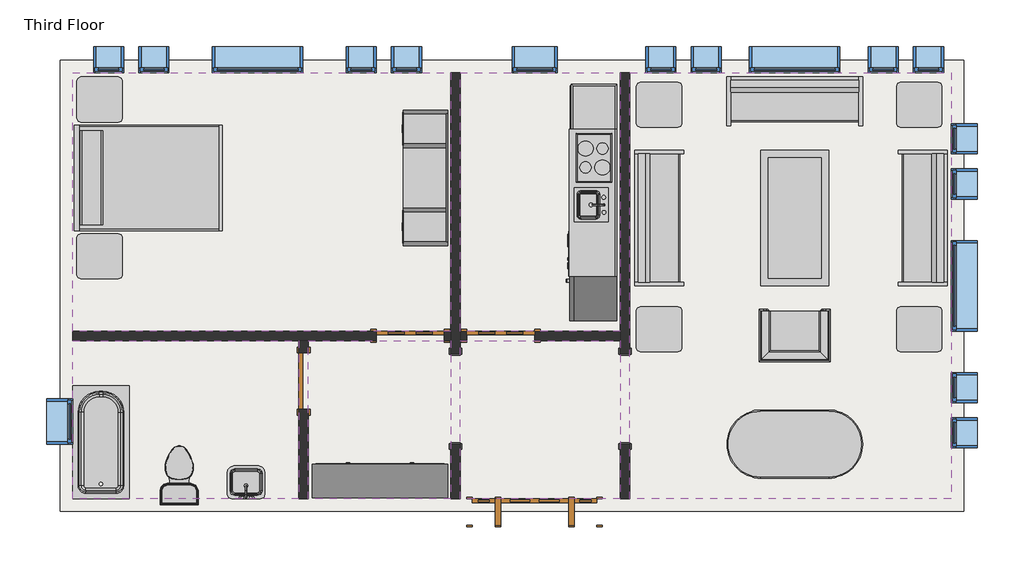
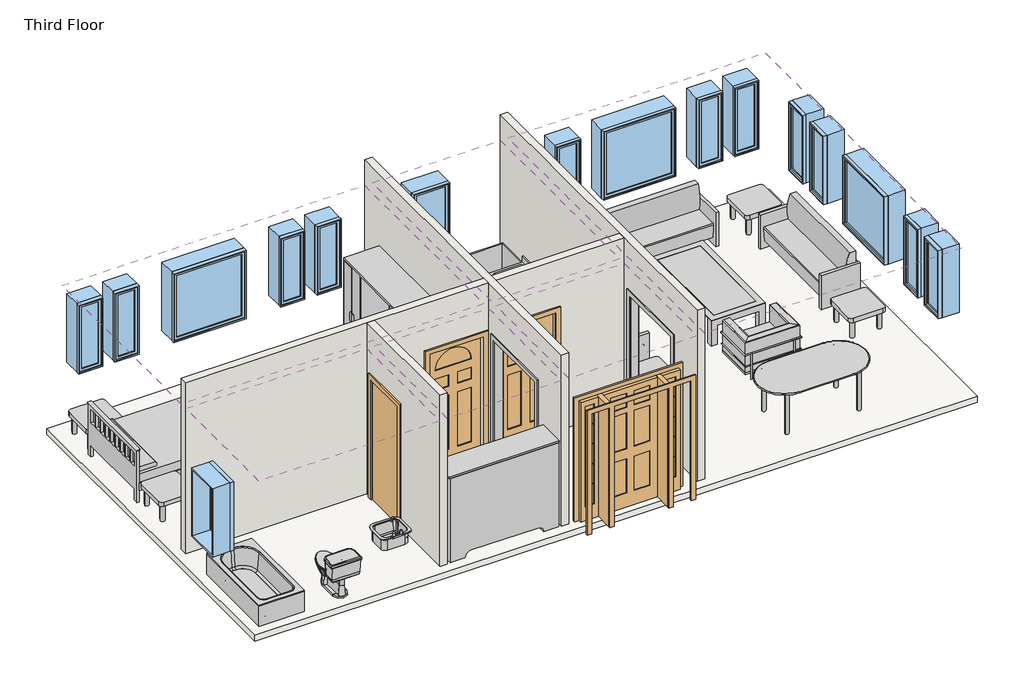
# One storey: 17 windows, 15 furniture elements, 6 coverings, 5 walls, 4 doors, 3 flow terminals, 3 proxies, 1 slab.
"""IFC4 building model written with IfcOpenShell, lengths in millimetres."""

from ifc_helpers import new_model, si_unit, frame, origin, place, context, project, spatial, polyline, outline, extrude, faceted_brep, transform, mapped, element, save
from components import proxy_64a468c4, proxy_f44482cc, door_829da954, door_2e3b4da2, door_4d6c7550, door_dba5aa2e, flow_terminal_0aeb31e3, toilet_domestic_3d_toilet_domestic_3d_f7549cf7, toilet_domestic_3d_toilet_domestic_3d_183bbd19, tub_rectangular_3d_tub_rectangular_3d_5e45a89b, furniture_096e7f55, chair_corbu_chair_corbu_2764bdef, furniture_7c473f12, furniture_ddc78764, furniture_4ef38d96, furniture_cd93a443, furniture_2c34a4f9, furniture_3a588284, furniture_1befe2a2, window_da97879f, window_d61ef850, window_60baf983, window_6eb97611

model = new_model("IFC4")

# Units and contexts
model_context = context("Model", 3, world=origin())
ifc_project = project(units=[si_unit("LENGTHUNIT", "METRE", prefix="MILLI")], contexts=[model_context])

# Site, building, storey
site = spatial("IfcSite", under=ifc_project)
building = spatial("IfcBuilding", under=site)
storey = spatial("IfcBuildingStorey", under=building, Name="Third Floor", Elevation=6096.0)

# Proxies
placement = place(None, origin())
proxy_shape = proxy_64a468c4(model_context)
element("IfcBuildingElementProxy", 1, Name="Kitchenette - Medium : 8'6\"", ObjectType="Kitchenette - Medium : 8'6\"", at=placement, inside=storey, context=model_context, shape_type="MappedRepresentation", body=[
    mapped(proxy_shape, transform((-3887.7589563, 8837.7956433, 6096.0), x_axis=(0.0, -1.0, 0.0), y_axis=(1.0, 0.0, 0.0), z_axis=(0.0, 0.0, 1.0))),
])
proxy_2_shape = proxy_f44482cc(model_context)
element("IfcBuildingElementProxy", 2, Name="Opening-Cased : 48\" x 84\"", ObjectType="Opening-Cased : 48\" x 84\"", at=placement, inside=storey, context=model_context, shape_type="MappedRepresentation", body=[
    mapped(proxy_2_shape, transform((-3773.4589563, 5882.4203434, 6096.0), x_axis=(0.0, 1.0, 0.0), y_axis=(-1.0, 0.0, 0.0), z_axis=(0.0, 0.0, 1.0))),
])
element("IfcBuildingElementProxy", 3, Name="Opening-Cased : 48\" x 84\"", ObjectType="Opening-Cased : 48\" x 84\"", at=placement, inside=storey, context=model_context, shape_type="MappedRepresentation", body=[
    mapped(proxy_2_shape, transform((-6059.4589563, 5866.04303, 6096.0), x_axis=(0.0, -1.0, 0.0), y_axis=(1.0, 0.0, 0.0), z_axis=(0.0, 0.0, 1.0))),
])

# Coverings
element("IfcCovering", 4, ObjectType="GWB on Mtl. Stud", at=placement, inside=storey, context=model_context, shape_type="SweptSolid", body=[
    extrude(outline(polyline([(-11217.2464563, 10270.0191867), (-6122.9589563, 10270.0191867), (-6122.9589563, 6787.0441867), (-11217.2464563, 6787.0441867), (-11217.2464563, 10270.0191867)])), frame((0.0, 0.0, 8686.8), z_axis=(0.0, 0.0, 1.0), x_axis=(1.0, 0.0, 0.0)), (0.0, 0.0, 1.0), 107.95),
])
element("IfcCovering", 5, ObjectType="GWB on Mtl. Stud", at=placement, inside=storey, context=model_context, shape_type="SweptSolid", body=[
    extrude(outline(polyline([(-5995.9589563, 6787.0441867), (-5995.9589563, 10270.0191867), (-3836.9589563, 10270.0191867), (-3836.9589563, 6787.0441867), (-5995.9589563, 6787.0441867)])), frame((0.0, 0.0, 8686.8), z_axis=(0.0, 0.0, 1.0), x_axis=(1.0, 0.0, 0.0)), (0.0, 0.0, 1.0), 107.95),
])
element("IfcCovering", 6, ObjectType="GWB on Mtl. Stud", at=placement, inside=storey, context=model_context, shape_type="SweptSolid", body=[
    extrude(outline(polyline([(-3709.9589563, 4526.4441867), (-3709.9589563, 10270.0191867), (622.3285437, 10270.0191867), (622.3285437, 4526.4441867), (-3709.9589563, 4526.4441867)])), frame((0.0, 0.0, 8686.8), z_axis=(0.0, 0.0, 1.0), x_axis=(1.0, 0.0, 0.0)), (0.0, 0.0, 1.0), 107.95),
])
element("IfcCovering", 7, ObjectType="GWB on Mtl. Stud", at=placement, inside=storey, context=model_context, shape_type="SweptSolid", body=[
    extrude(outline(polyline([(-3836.9589563, 4526.4441867), (-5995.9589563, 4526.4441867), (-5995.9589563, 6660.0441867), (-3836.9589563, 6660.0441867), (-3836.9589563, 4526.4441867)])), frame((0.0, 0.0, 8686.8), z_axis=(0.0, 0.0, 1.0), x_axis=(1.0, 0.0, 0.0)), (0.0, 0.0, 1.0), 107.95),
])
element("IfcCovering", 8, ObjectType="GWB on Mtl. Stud", at=placement, inside=storey, context=model_context, shape_type="SweptSolid", body=[
    extrude(outline(polyline([(-6122.9589563, 4526.4441867), (-8042.2464563, 4526.4441867), (-8042.2464563, 6660.0441867), (-6122.9589563, 6660.0441867), (-6122.9589563, 4526.4441867)])), frame((0.0, 0.0, 8686.8), z_axis=(0.0, 0.0, 1.0), x_axis=(1.0, 0.0, 0.0)), (0.0, 0.0, 1.0), 107.95),
])
element("IfcCovering", 9, ObjectType="GWB on Mtl. Stud", at=placement, inside=storey, context=model_context, shape_type="SweptSolid", body=[
    extrude(outline(polyline([(-8169.2464563, 6660.0441867), (-8169.2464563, 4526.4441867), (-11217.2464563, 4526.4441867), (-11217.2464563, 6660.0441867), (-8169.2464563, 6660.0441867)])), frame((0.0, 0.0, 8686.8), z_axis=(0.0, 0.0, 1.0), x_axis=(1.0, 0.0, 0.0)), (0.0, 0.0, 1.0), 107.95),
])

# Doors
door_shape = door_829da954(model_context)
element("IfcDoor", 10, ObjectType="Single-Decorative 2 : 36\" x 84\"", at=placement, inside=storey, context=model_context, shape_type="MappedRepresentation", body=[
    mapped(door_shape, transform((-5449.8589563, 6723.5441867, 6096.0), x_axis=(-1.0, 0.0, 0.0), y_axis=(0.0, -1.0, 0.0), z_axis=(0.0, 0.0, 1.0))),
])
door_2_shape = door_2e3b4da2(model_context)
element("IfcDoor", 11, ObjectType="Single-Decorative 2 : 36\" x 84\"", at=placement, inside=storey, context=model_context, shape_type="MappedRepresentation", body=[
    mapped(door_2_shape, transform((-6669.0589563, 6723.5441867, 6096.0), x_axis=(1.0, 0.0, 0.0), y_axis=(0.0, 1.0, 0.0), z_axis=(0.0, 0.0, 1.0))),
])
door_3_shape = door_4d6c7550(model_context)
element("IfcDoor", 12, ObjectType="Single-Flush : 30\" x 84\"", at=placement, inside=storey, context=model_context, shape_type="MappedRepresentation", body=[
    mapped(door_3_shape, transform((-8105.7464563, 6113.9441867, 6096.0), x_axis=(0.0, 1.0, 0.0), y_axis=(-1.0, 0.0, 0.0), z_axis=(0.0, 0.0, 1.0))),
])
door_4_shape = door_dba5aa2e(model_context)
element("IfcDoor", 13, ObjectType="Single-Raised Panel with Sidelights : 36\" x 84\"", at=placement, inside=storey, context=model_context, shape_type="MappedRepresentation", body=[
    mapped(door_4_shape, transform((-4992.6589563, 4350.2316867, 6096.0), x_axis=(-1.0, 0.0, 0.0), y_axis=(0.0, -1.0, 0.0), z_axis=(0.0, 0.0, 1.0))),
])

# Flow terminals
flow_terminal_shape = flow_terminal_0aeb31e3(model_context)
element("IfcFlowTerminal", 14, ObjectType="Sink Vanity-Square : 24\" x 19\"", at=placement, inside=storey, context=model_context, shape_type="MappedRepresentation", body=[
    mapped(flow_terminal_shape, transform((-8864.7572157, 4706.5895878, 6096.0), x_axis=(-1.0, 0.0, 0.0), y_axis=(0.0, -1.0, 0.0), z_axis=(0.0, 0.0, 1.0))),
])
toilet_domestic_3d_toilet_domestic_3d_shape = toilet_domestic_3d_toilet_domestic_3d_f7549cf7(model_context)
toilet_domestic_3d_toilet_domestic_3d_2_shape = toilet_domestic_3d_toilet_domestic_3d_183bbd19(model_context)
element("IfcFlowTerminal", 15, ObjectType="Toilet-Domestic-3D : Toilet-Domestic-3D", at=placement, inside=storey, context=model_context, shape_type="MappedRepresentation", body=[
    mapped(toilet_domestic_3d_toilet_domestic_3d_shape, transform((-9782.1466587, 4940.866411, 6096.0), x_axis=(-1.0000000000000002, 0.0, 0.0), y_axis=(0.0, -1.0000000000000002, 0.0), z_axis=(0.0, 0.0, 1.0))),
    mapped(toilet_domestic_3d_toilet_domestic_3d_2_shape, transform((-9782.1466587, 4940.866411, 6096.0), x_axis=(-1.0000000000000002, 0.0, 0.0), y_axis=(0.0, -1.0000000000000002, 0.0), z_axis=(0.0, 0.0, 1.0))),
])
tub_rectangular_3d_tub_rectangular_3d_shape = tub_rectangular_3d_tub_rectangular_3d_5e45a89b(model_context)
element("IfcFlowTerminal", 16, ObjectType="Tub-Rectangular-3D : Tub-Rectangular-3D", at=placement, inside=storey, context=model_context, shape_type="MappedRepresentation", body=[
    mapped(tub_rectangular_3d_tub_rectangular_3d_shape, transform((-11393.4589563, 5637.0471554, 6096.0), x_axis=(0.0, 1.0, 0.0), y_axis=(-1.0, 0.0, 0.0), z_axis=(0.0, 0.0, 1.0))),
])

# Furniture
furniture_shape = furniture_096e7f55(model_context)
element("IfcFurniture", 17, ObjectType="Bed-Shaker : Double 56\" x 78\"", at=placement, inside=storey, context=model_context, shape_type="MappedRepresentation", body=[
    mapped(furniture_shape, transform((-11183.1982802, 8871.8755561, 6096.0), x_axis=(0.0, 1.0, 0.0), y_axis=(-1.0, 0.0, 0.0), z_axis=(0.0, 0.0, 1.0))),
])
chair_corbu_chair_corbu_shape = chair_corbu_chair_corbu_2764bdef(model_context)
element("IfcFurniture", 18, ObjectType="Chair-Corbu : Chair-Corbu", at=placement, inside=storey, context=model_context, shape_type="MappedRepresentation", body=[
    mapped(chair_corbu_chair_corbu_shape, transform((-914.0851858, 7193.4962359, 6096.0), x_axis=(-1.0, 0.0, 0.0), y_axis=(0.0, -1.0, 0.0), z_axis=(0.0, 0.0, 1.0))),
])
furniture_2_shape = furniture_7c473f12(model_context)
element("IfcFurniture", 19, ObjectType="Dresser : 72\" x 60\" x 18\"", at=placement, inside=storey, context=model_context, shape_type="MappedRepresentation", body=[
    mapped(furniture_2_shape, transform((-7344.6522161, 4404.5812326, 6096.0), x_axis=(-1.0, 0.0, 0.0), y_axis=(0.0, -1.0, 0.0), z_axis=(0.0, 0.0, 1.0))),
])
furniture_3_shape = furniture_ddc78764(model_context)
element("IfcFurniture", 20, ObjectType="Entertainment Center : 72\" x 72\" x 24\"", at=placement, inside=storey, context=model_context, shape_type="MappedRepresentation", body=[
    mapped(furniture_3_shape, transform((-6059.4589563, 8852.8255561, 6096.0), x_axis=(0.0, -1.0, 0.0), y_axis=(1.0, 0.0, 0.0), z_axis=(0.0, 0.0, 1.0))),
])
furniture_4_shape = furniture_4ef38d96(model_context)
element("IfcFurniture", 21, ObjectType="Sofa : 72\"", at=placement, inside=storey, context=model_context, shape_type="MappedRepresentation", body=[
    mapped(furniture_4_shape, transform((-1557.8294481, 9741.2775883, 6096.0), x_axis=(1.0, 0.0, 0.0), y_axis=(0.0, 1.0, 0.0), z_axis=(0.0, 0.0, 1.0))),
])
element("IfcFurniture", 22, ObjectType="Sofa : 72\"", at=placement, inside=storey, context=model_context, shape_type="MappedRepresentation", body=[
    mapped(furniture_4_shape, transform((93.5869453, 8383.0021785, 6096.0), x_axis=(0.0, -1.0, 0.0), y_axis=(1.0, 0.0, 0.0), z_axis=(0.0, 0.0, 1.0))),
])
element("IfcFurniture", 23, ObjectType="Sofa : 72\"", at=placement, inside=storey, context=model_context, shape_type="MappedRepresentation", body=[
    mapped(furniture_4_shape, transform((-3170.104858, 8242.2611949, 6096.0), x_axis=(0.0, 1.0, 0.0), y_axis=(-1.0, 0.0, 0.0), z_axis=(0.0, 0.0, 1.0))),
])
furniture_5_shape = furniture_cd93a443(model_context)
element("IfcFurniture", 24, ObjectType="Table-Coffee : 36\" x 72\" x 18\"", at=placement, inside=storey, context=model_context, shape_type="MappedRepresentation", body=[
    mapped(furniture_5_shape, transform((-1582.6700341, 8330.8974534, 6096.0), x_axis=(0.0, -1.0, 0.0), y_axis=(1.0, 0.0, 0.0), z_axis=(0.0, 0.0, 1.0))),
])
furniture_6_shape = furniture_2c34a4f9(model_context)
element("IfcFurniture", 25, ObjectType="Table-Dining Oval : 36\" x 72\"", at=placement, inside=storey, context=model_context, shape_type="MappedRepresentation", body=[
    mapped(furniture_6_shape, transform((-1085.6392842, 5622.7300473, 6096.0), x_axis=(1.0, 0.0, 0.0), y_axis=(0.0, 1.0, 0.0), z_axis=(0.0, 0.0, 1.0))),
])
furniture_7_shape = furniture_3a588284(model_context)
element("IfcFurniture", 26, ObjectType="Table-End : 24\" x 24\"", at=placement, inside=storey, context=model_context, shape_type="MappedRepresentation", body=[
    mapped(furniture_7_shape, transform((-119.5925866, 9684.2316867, 6096.0), x_axis=(1.0, 0.0, 0.0), y_axis=(0.0, 1.0, 0.0), z_axis=(0.0, 0.0, 1.0))),
])
element("IfcFurniture", 27, ObjectType="Table-End : 24\" x 24\"", at=placement, inside=storey, context=model_context, shape_type="MappedRepresentation", body=[
    mapped(furniture_7_shape, transform((-3624.7925866, 9684.2316867, 6096.0), x_axis=(1.0, 0.0, 0.0), y_axis=(0.0, 1.0, 0.0), z_axis=(0.0, 0.0, 1.0))),
])
element("IfcFurniture", 28, ObjectType="Table-End : 24\" x 24\"", at=placement, inside=storey, context=model_context, shape_type="MappedRepresentation", body=[
    mapped(furniture_7_shape, transform((-3624.7925866, 6660.0441867, 6096.0), x_axis=(1.0, 0.0, 0.0), y_axis=(0.0, 1.0, 0.0), z_axis=(0.0, 0.0, 1.0))),
])
element("IfcFurniture", 29, ObjectType="Table-End : 24\" x 24\"", at=placement, inside=storey, context=model_context, shape_type="MappedRepresentation", body=[
    mapped(furniture_7_shape, transform((-119.5925866, 6660.0441867, 6096.0), x_axis=(1.0, 0.0, 0.0), y_axis=(0.0, 1.0, 0.0), z_axis=(0.0, 0.0, 1.0))),
])
element("IfcFurniture", 30, ObjectType="Table-End : 24\" x 24\"", at=placement, inside=storey, context=model_context, shape_type="MappedRepresentation", body=[
    mapped(furniture_7_shape, transform((-11164.2346356, 9756.0737357, 6096.0), x_axis=(1.0, 0.0, 0.0), y_axis=(0.0, 1.0, 0.0), z_axis=(0.0, 0.0, 1.0))),
])
furniture_8_shape = furniture_1befe2a2(model_context)
element("IfcFurniture", 31, ObjectType="Table-End : 24\" x 24\"", at=placement, inside=storey, context=model_context, shape_type="MappedRepresentation", body=[
    mapped(furniture_8_shape, transform((-11164.2346356, 7949.5773764, 6096.0), x_axis=(1.0, 0.0, 0.0), y_axis=(0.0, 1.0, 0.0), z_axis=(0.0, 0.0, 1.0))),
])

# Slab
element("IfcSlab", 32, ObjectType="LW Concrete on Metal Deck", at=placement, inside=storey, context=model_context, shape_type="SweptSolid", body=[
    extrude(outline(polyline([(787.4285437, 10435.1191867), (787.4285437, 4361.3441867), (-11382.3464563, 4361.3441867), (-11382.3464563, 10435.1191867), (787.4285437, 10435.1191867)])), frame((0.0, 0.0, 5991.225), z_axis=(0.0, 0.0, 1.0), x_axis=(1.0, 0.0, 0.0)), (0.0, 0.0, 1.0), 104.775),
])

# Walls
element("IfcWall", 33, ObjectType="Interior - 5\" Partition (2-hr)", at=placement, inside=storey, context=model_context, shape_type="Brep", body=[
    faceted_brep([(-3709.9589563, 10270.0191867, 6096.0), (-3709.9589563, 6483.8316867, 6096.0), (-3836.9589563, 6483.8316867, 6096.0), (-3836.9589563, 6660.0441867, 6096.0), (-3836.9589563, 6787.0441867, 6096.0), (-3836.9589563, 10270.0191867, 6096.0), (-3709.9589563, 5264.6316867, 6096.0), (-3709.9589563, 4526.4441867, 6096.0), (-3836.9589563, 4526.4441867, 6096.0), (-3836.9589563, 5264.6316867, 6096.0), (-3836.9589563, 10270.0191867, 9144.0), (-3836.9589563, 6787.0441867, 9144.0), (-3836.9589563, 6660.0441867, 9144.0), (-3836.9589563, 4526.4441867, 9144.0), (-3709.9589563, 4526.4441867, 9144.0), (-3709.9589563, 10270.0191867, 9144.0), (-3836.9589563, 6483.8316867, 8229.6), (-3836.9589563, 5264.6316867, 8229.6), (-3709.9589563, 6483.8316867, 8229.6), (-3709.9589563, 5264.6316867, 8229.6)], [[[0, 1, 2, 3, 4, 5]], [[6, 7, 8, 9]], [[10, 11, 12, 13, 14, 15]], [[5, 4, 3, 2, 16, 17, 9, 8, 13, 12, 11, 10]], [[18, 1, 0, 15, 14, 7, 6, 19]], [[5, 10, 15, 0]], [[13, 8, 7, 14]], [[9, 17, 19, 6]], [[16, 2, 1, 18]], [[17, 16, 18, 19]]]),
])
element("IfcWall", 34, ObjectType="Interior - 5\" Partition (2-hr)", at=placement, inside=storey, context=model_context, shape_type="Brep", body=[
    faceted_brep([(-6122.9589563, 4526.4441867, 6096.0), (-6122.9589563, 5264.6316867, 6096.0), (-5995.9589563, 5264.6316867, 6096.0), (-5995.9589563, 4526.4441867, 6096.0), (-6122.9589563, 6483.8316867, 6096.0), (-6122.9589563, 6660.0441867, 6096.0), (-6122.9589563, 6787.0441867, 6096.0), (-6122.9589563, 10270.0191867, 6096.0), (-5995.9589563, 10270.0191867, 6096.0), (-5995.9589563, 6787.0441867, 6096.0), (-5995.9589563, 6660.0441867, 6096.0), (-5995.9589563, 6483.8316867, 6096.0), (-6122.9589563, 10270.0191867, 9144.0), (-6122.9589563, 6787.0441867, 9144.0), (-6122.9589563, 6660.0441867, 9144.0), (-6122.9589563, 4526.4441867, 9144.0), (-5995.9589563, 4526.4441867, 9144.0), (-5995.9589563, 6660.0441867, 9144.0), (-5995.9589563, 6787.0441867, 9144.0), (-5995.9589563, 10270.0191867, 9144.0), (-6122.9589563, 5264.6316867, 8229.6), (-6122.9589563, 6483.8316867, 8229.6), (-5995.9589563, 5264.6316867, 8229.6), (-5995.9589563, 6483.8316867, 8229.6)], [[[0, 1, 2, 3]], [[4, 5, 6, 7, 8, 9, 10, 11]], [[12, 13, 14, 15, 16, 17, 18, 19]], [[20, 1, 0, 15, 14, 13, 12, 7, 6, 5, 4, 21]], [[3, 2, 22, 23, 11, 10, 9, 8, 19, 18, 17, 16]], [[7, 12, 19, 8]], [[15, 0, 3, 16]], [[11, 23, 21, 4]], [[22, 2, 1, 20]], [[23, 22, 20, 21]]]),
])
element("IfcWall", 35, ObjectType="Interior - 5\" Partition (2-hr)", at=placement, inside=storey, context=model_context, shape_type="Brep", body=[
    faceted_brep([(-6122.9589563, 6660.0441867, 6096.0), (-6211.8589563, 6660.0441867, 6096.0), (-6211.8589563, 6787.0441867, 6096.0), (-6122.9589563, 6787.0441867, 6096.0), (-7126.2589563, 6660.0441867, 6096.0), (-8042.2464563, 6660.0441867, 6096.0), (-8169.2464563, 6660.0441867, 6096.0), (-11217.2464563, 6660.0441867, 6096.0), (-11217.2464563, 6787.0441867, 6096.0), (-7126.2589563, 6787.0441867, 6096.0), (-11217.2464563, 6660.0441867, 9144.0), (-8169.2464563, 6660.0441867, 9144.0), (-8042.2464563, 6660.0441867, 9144.0), (-6122.9589563, 6660.0441867, 9144.0), (-6122.9589563, 6787.0441867, 9144.0), (-11217.2464563, 6787.0441867, 9144.0), (-6211.8589563, 6660.0441867, 8229.6), (-7126.2589563, 6660.0441867, 8229.6), (-6211.8589563, 6787.0441867, 8229.6), (-7126.2589563, 6787.0441867, 8229.6)], [[[0, 1, 2, 3]], [[4, 5, 6, 7, 8, 9]], [[10, 11, 12, 13, 14, 15]], [[16, 1, 0, 13, 12, 11, 10, 7, 6, 5, 4, 17]], [[3, 2, 18, 19, 9, 8, 15, 14]], [[13, 0, 3, 14]], [[7, 10, 15, 8]], [[18, 2, 1, 16]], [[19, 18, 16, 17]], [[9, 19, 17, 4]]]),
])
element("IfcWall", 36, ObjectType="Interior - 5\" Partition (2-hr)", at=placement, inside=storey, context=model_context, shape_type="SweptSolid", body=[
    extrude(outline(polyline([(6660.0441867, 6096.0), (6494.9441867, 6096.0), (6494.9441867, 8229.6), (5732.9441867, 8229.6), (5732.9441867, 6096.0), (4526.4441867, 6096.0), (4526.4441867, 9144.0), (6660.0441867, 9144.0), (6660.0441867, 6096.0)])), frame((-8169.2464563, 0.0, 0.0), z_axis=(1.0, 0.0, 0.0), x_axis=(0.0, 1.0, 0.0)), (0.0, 0.0, 1.0), 127.0),
])
element("IfcWall", 37, ObjectType="Interior - 5\" Partition (2-hr)", at=placement, inside=storey, context=model_context, shape_type="SweptSolid", body=[
    extrude(outline(polyline([(6096.0, -5995.9589563), (6096.0, -5907.0589563), (8229.6, -5907.0589563), (8229.6, -4992.6589563), (6096.0, -4992.6589563), (6096.0, -3836.9589563), (9144.0, -3836.9589563), (9144.0, -5995.9589563), (6096.0, -5995.9589563)])), frame((0.0, 6660.0441867, 0.0), z_axis=(0.0, 1.0, 0.0), x_axis=(0.0, 0.0, 1.0)), (0.0, 0.0, 1.0), 127.0),
])

# Windows
window_shape = window_da97879f(model_context)
element("IfcWindow", 38, ObjectType="Fixed : 16\" x 48\"", at=placement, inside=storey, context=model_context, shape_type="MappedRepresentation", body=[
    mapped(window_shape, transform((-10771.1589563, 10446.2316867, 6096.0), x_axis=(-1.0, 0.0, 0.0), y_axis=(0.0, -1.0, 0.0), z_axis=(0.0, 0.0, 1.0))),
])
element("IfcWindow", 39, ObjectType="Fixed : 16\" x 48\"", at=placement, inside=storey, context=model_context, shape_type="MappedRepresentation", body=[
    mapped(window_shape, transform((-10161.5589563, 10446.2316867, 6096.0), x_axis=(-1.0, 0.0, 0.0), y_axis=(0.0, -1.0, 0.0), z_axis=(0.0, 0.0, 1.0))),
])
element("IfcWindow", 40, ObjectType="Fixed : 16\" x 48\"", at=placement, inside=storey, context=model_context, shape_type="MappedRepresentation", body=[
    mapped(window_shape, transform((-3328.9589563, 10446.2316867, 6096.0), x_axis=(-1.0, 0.0, 0.0), y_axis=(0.0, -1.0, 0.0), z_axis=(0.0, 0.0, 1.0))),
])
element("IfcWindow", 41, ObjectType="Fixed : 16\" x 48\"", at=placement, inside=storey, context=model_context, shape_type="MappedRepresentation", body=[
    mapped(window_shape, transform((-2719.3589563, 10446.2316867, 6096.0), x_axis=(-1.0, 0.0, 0.0), y_axis=(0.0, -1.0, 0.0), z_axis=(0.0, 0.0, 1.0))),
])
element("IfcWindow", 42, ObjectType="Fixed : 16\" x 48\"", at=placement, inside=storey, context=model_context, shape_type="MappedRepresentation", body=[
    mapped(window_shape, transform((798.5410437, 9417.5316867, 6096.0), x_axis=(0.0, 1.0, 0.0), y_axis=(-1.0, 0.0, 0.0), z_axis=(0.0, 0.0, 1.0))),
])
element("IfcWindow", 43, ObjectType="Fixed : 16\" x 48\"", at=placement, inside=storey, context=model_context, shape_type="MappedRepresentation", body=[
    mapped(window_shape, transform((798.5410437, 8807.9316867, 6096.0), x_axis=(0.0, 1.0, 0.0), y_axis=(-1.0, 0.0, 0.0), z_axis=(0.0, 0.0, 1.0))),
])
window_2_shape = window_d61ef850(model_context)
element("IfcWindow", 44, ObjectType="Fixed : 16\" x 48\"", at=placement, inside=storey, context=model_context, shape_type="MappedRepresentation", body=[
    mapped(window_2_shape, transform((-6681.7589563, 10446.2316867, 6096.0), x_axis=(1.0, 0.0, 0.0), y_axis=(0.0, 1.0, 0.0), z_axis=(0.0, 0.0, 1.0))),
])
element("IfcWindow", 45, ObjectType="Fixed : 16\" x 48\"", at=placement, inside=storey, context=model_context, shape_type="MappedRepresentation", body=[
    mapped(window_2_shape, transform((-7291.3589563, 10446.2316867, 6096.0), x_axis=(1.0, 0.0, 0.0), y_axis=(0.0, 1.0, 0.0), z_axis=(0.0, 0.0, 1.0))),
])
element("IfcWindow", 46, ObjectType="Fixed : 16\" x 48\"", at=placement, inside=storey, context=model_context, shape_type="MappedRepresentation", body=[
    mapped(window_2_shape, transform((354.0410437, 10446.2316867, 6096.0), x_axis=(1.0, 0.0, 0.0), y_axis=(0.0, 1.0, 0.0), z_axis=(0.0, 0.0, 1.0))),
])
element("IfcWindow", 47, ObjectType="Fixed : 16\" x 48\"", at=placement, inside=storey, context=model_context, shape_type="MappedRepresentation", body=[
    mapped(window_2_shape, transform((-255.5589563, 10446.2316867, 6096.0), x_axis=(1.0, 0.0, 0.0), y_axis=(0.0, 1.0, 0.0), z_axis=(0.0, 0.0, 1.0))),
])
element("IfcWindow", 48, ObjectType="Fixed : 16\" x 48\"", at=placement, inside=storey, context=model_context, shape_type="MappedRepresentation", body=[
    mapped(window_2_shape, transform((798.5410437, 5378.9316867, 6096.0), x_axis=(0.0, -1.0, 0.0), y_axis=(1.0, 0.0, 0.0), z_axis=(0.0, 0.0, 1.0))),
])
element("IfcWindow", 49, ObjectType="Fixed : 16\" x 48\"", at=placement, inside=storey, context=model_context, shape_type="MappedRepresentation", body=[
    mapped(window_2_shape, transform((798.5410437, 5988.5316867, 6096.0), x_axis=(0.0, -1.0, 0.0), y_axis=(1.0, 0.0, 0.0), z_axis=(0.0, 0.0, 1.0))),
])
window_3_shape = window_60baf983(model_context)
element("IfcWindow", 50, ObjectType="Fixed : 24\" x 48\"", at=placement, inside=storey, context=model_context, shape_type="MappedRepresentation", body=[
    mapped(window_3_shape, transform((-5030.7589563, 10446.2316867, 6096.0), x_axis=(-1.0, 0.0, 0.0), y_axis=(0.0, -1.0, 0.0), z_axis=(0.0, 0.0, 1.0))),
])
element("IfcWindow", 51, ObjectType="Fixed : 24\" x 48\"", at=placement, inside=storey, context=model_context, shape_type="MappedRepresentation", body=[
    mapped(window_3_shape, transform((-11393.4589563, 5531.3316867, 6096.0), x_axis=(0.0, -1.0, 0.0), y_axis=(1.0, 0.0, 0.0), z_axis=(0.0, 0.0, 1.0))),
])
window_4_shape = window_6eb97611(model_context)
element("IfcWindow", 52, ObjectType="Fixed : 48\" x 48\"", at=placement, inside=storey, context=model_context, shape_type="MappedRepresentation", body=[
    mapped(window_4_shape, transform((-8764.5589563, 10446.2316867, 6096.0), x_axis=(-1.0, 0.0, 0.0), y_axis=(0.0, -1.0, 0.0), z_axis=(0.0, 0.0, 1.0))),
])
element("IfcWindow", 53, ObjectType="Fixed : 48\" x 48\"", at=placement, inside=storey, context=model_context, shape_type="MappedRepresentation", body=[
    mapped(window_4_shape, transform((-1525.5589563, 10446.2316867, 6096.0), x_axis=(-1.0, 0.0, 0.0), y_axis=(0.0, -1.0, 0.0), z_axis=(0.0, 0.0, 1.0))),
])
element("IfcWindow", 54, ObjectType="Fixed : 48\" x 48\"", at=placement, inside=storey, context=model_context, shape_type="MappedRepresentation", body=[
    mapped(window_4_shape, transform((798.5410437, 7436.3316867, 6096.0), x_axis=(0.0, 1.0, 0.0), y_axis=(-1.0, 0.0, 0.0), z_axis=(0.0, 0.0, 1.0))),
])

save(model, "model.ifc")
